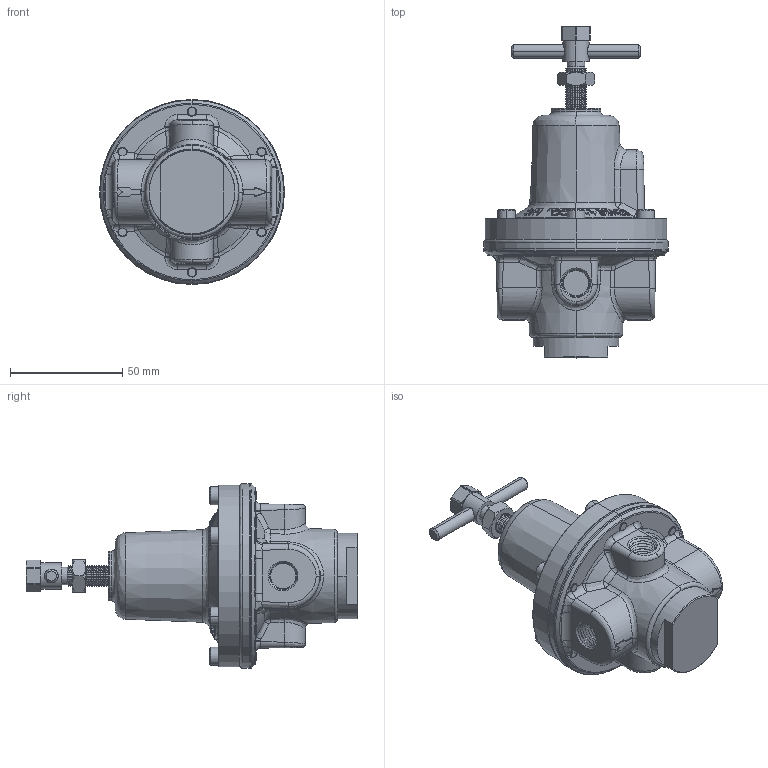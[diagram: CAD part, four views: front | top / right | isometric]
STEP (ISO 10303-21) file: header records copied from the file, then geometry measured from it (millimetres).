
FILE_DESCRIPTION (( 'STEP AP203' ), '1' );
FILE_NAME ('4GDR-2BSPT.STEP', '2013-03-14T15:08:00', ( '' ), ( '' ), 'SwSTEP 2.0', 'SolidWorks 2011', '' );
FILE_SCHEMA (( 'CONFIG_CONTROL_DESIGN' ));
Length unit declared in the file: inch
Products named in the file (2): 4GDR-2BSPT; Part1^4GDR-250B_CM
Assembly tree (1 placements, depth 2):
  4GDR-2BSPT
    Part1^4GDR-250B_CM
Bounding box: 82.3 x 147.64 x 82.3 mm (x, y, z)
Volume: 244459.6 mm3; surface area: 35119.7 mm2
Topology: 1 solids, 6 shells, 1172 faces, 2922 edges, 1799 vertices
Faces by surface type: cone 413, plane 312, bspline 268, cylinder 179
Entity records: 47289 total; most frequent: CARTESIAN_POINT 21230, ORIENTED_EDGE 5820, DIRECTION 4870, EDGE_CURVE 2910, AXIS2_PLACEMENT_3D 1927, VERTEX_POINT 1799, EDGE_LOOP 1231, FACE_OUTER_BOUND 1172
